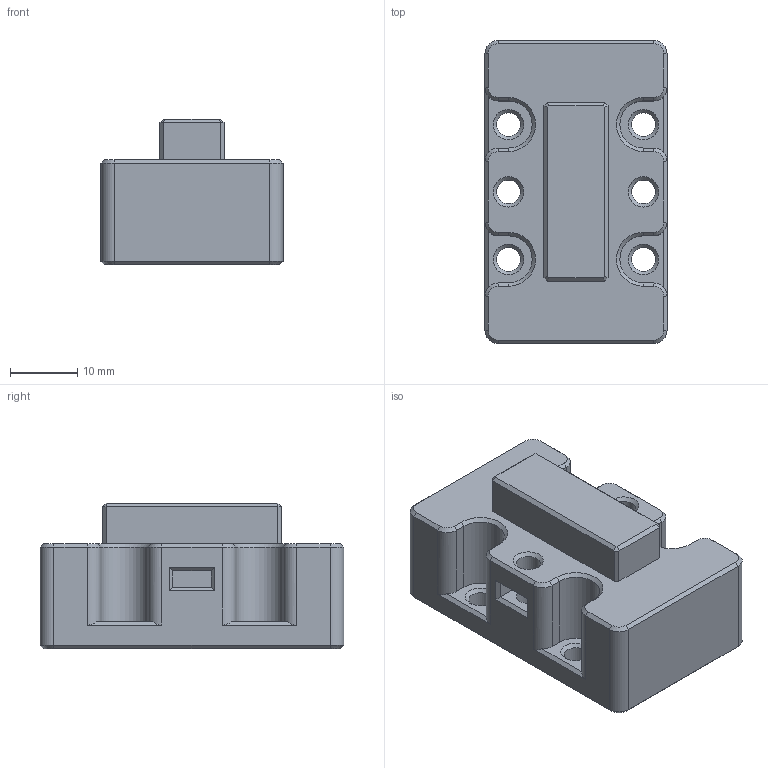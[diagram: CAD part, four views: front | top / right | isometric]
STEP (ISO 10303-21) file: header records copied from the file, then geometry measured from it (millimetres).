
FILE_DESCRIPTION(/* description */ (''),/* implementation_level */ '2;1');
FILE_NAME(/* name */ 'D:/Desktop/MGN12H mount.step',/* time_stamp */ '2019-01-13T18:54:17+01:00',/* author */ ('stwebster'),/* organization */ (''),/* preprocessor_version */ 'ST-DEVELOPER v17.2',/* originating_system */ 'Autodesk Translation Framework v7.6.0.251',/* authorisation */ '');
FILE_SCHEMA (('AUTOMOTIVE_DESIGN { 1 0 10303 214 3 1 1 }'));
Length unit declared in the file: millimetre
Products named in the file (1): linearschienenadapter
Bounding box: 27 x 45 x 21.57 mm (x, y, z)
Volume: 17610.9 mm3; surface area: 5815.8 mm2
Topology: 1 solids, 1 shells, 133 faces, 320 edges, 192 vertices
Faces by surface type: plane 77, cone 32, cylinder 24
Full cylindrical faces by diameter (mm): 3.5 x8
Entity records: 3855 total; most frequent: DIRECTION 676, CARTESIAN_POINT 646, ORIENTED_EDGE 640, EDGE_CURVE 320, LINE 232, VECTOR 232, AXIS2_PLACEMENT_3D 222, VERTEX_POINT 192
